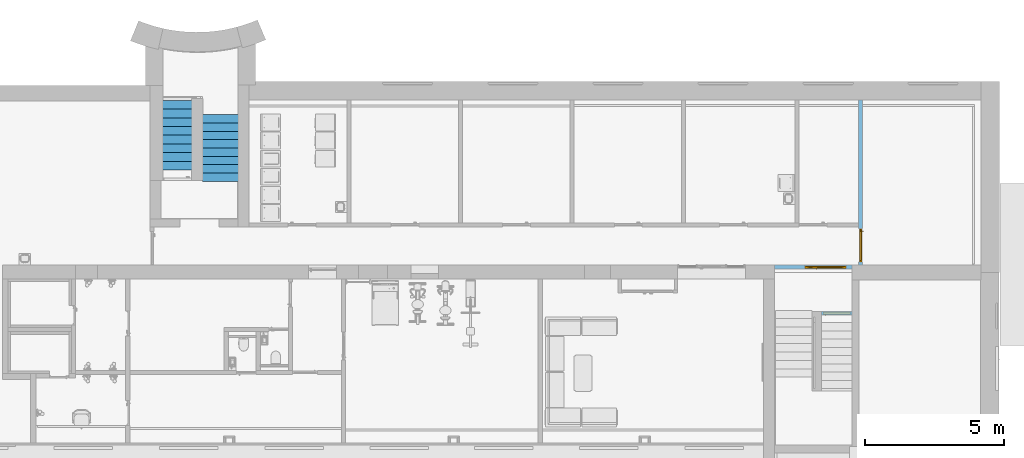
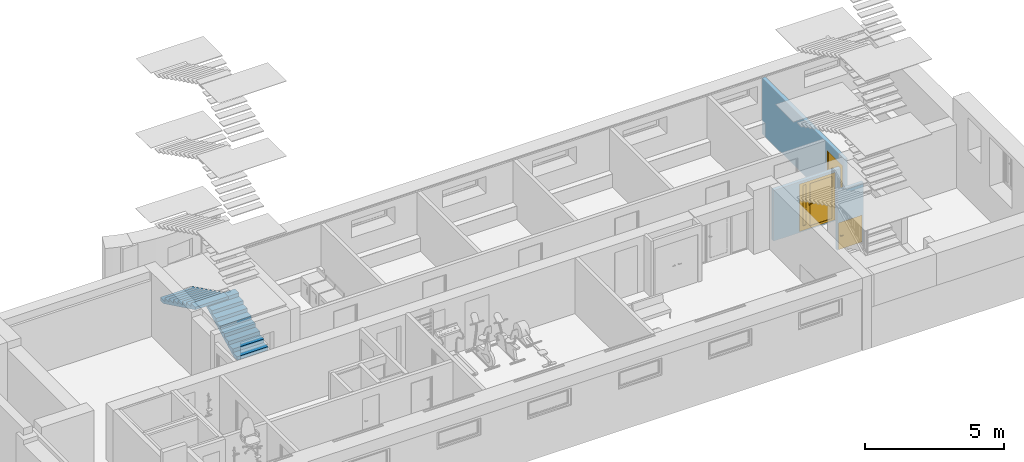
# One storey, part 15 of 23: 3 doors, 2 stair flights, 3 openings, 2 elements without a shape of their own, plus 3 elements that do not belong to this part.
"""IFC2X3 building model written with IfcOpenShell, lengths in millimetres."""

from ifc_helpers import new_model, entity, si_unit, converted_unit, derived_unit, direction, frame, frame_2d, origin, place, context, subcontext, project, spatial, rectangle, extrude, faceted_brep, source, transform, mapped, material, material_list, layer, layer_set, layer_usage, type_object, type_shapes, element, fill, aggregate, save


model = new_model("IFC2X3")

# Units and contexts
model_context = context("Model", 3, precision=0.01, world=origin(), true_north=direction((6.12303176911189e-17, 1.0)))
body_context = subcontext(model_context, "Body", "Model", "MODEL_VIEW")
ifc_project = project(units=[si_unit("LENGTHUNIT", "METRE", prefix="MILLI"), si_unit("AREAUNIT", "SQUARE_METRE"), si_unit("VOLUMEUNIT", "CUBIC_METRE"), converted_unit("PLANEANGLEUNIT", "DEGREE", entity("IfcRatioMeasure", 0.0174532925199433), si_unit("PLANEANGLEUNIT", "RADIAN"), dimensions=[0, 0, 0, 0, 0, 0, 0]), si_unit("MASSUNIT", "GRAM", prefix="KILO"), derived_unit("MASSDENSITYUNIT", [(si_unit("MASSUNIT", "GRAM", prefix="KILO"), 1), (si_unit("LENGTHUNIT", "METRE"), -3)]), si_unit("TIMEUNIT", "SECOND"), si_unit("FREQUENCYUNIT", "HERTZ"), si_unit("THERMODYNAMICTEMPERATUREUNIT", "DEGREE_CELSIUS"), derived_unit("THERMALTRANSMITTANCEUNIT", [(si_unit("MASSUNIT", "GRAM", prefix="KILO"), 1), (si_unit("THERMODYNAMICTEMPERATUREUNIT", "KELVIN"), -1), (si_unit("TIMEUNIT", "SECOND"), -3)]), derived_unit("VOLUMETRICFLOWRATEUNIT", [(si_unit("LENGTHUNIT", "METRE"), 3), (si_unit("TIMEUNIT", "SECOND"), -1)]), si_unit("ELECTRICCURRENTUNIT", "AMPERE"), si_unit("ELECTRICVOLTAGEUNIT", "VOLT"), si_unit("POWERUNIT", "WATT"), si_unit("FORCEUNIT", "NEWTON", prefix="KILO"), si_unit("ILLUMINANCEUNIT", "LUX"), si_unit("LUMINOUSFLUXUNIT", "LUMEN"), si_unit("LUMINOUSINTENSITYUNIT", "CANDELA"), derived_unit("USERDEFINED", [(si_unit("MASSUNIT", "GRAM", prefix="KILO"), -1), (si_unit("LENGTHUNIT", "METRE"), -2), (si_unit("TIMEUNIT", "SECOND"), 3), (si_unit("LUMINOUSFLUXUNIT", "LUMEN"), 1)]), derived_unit("LINEARVELOCITYUNIT", [(si_unit("LENGTHUNIT", "METRE"), 1), (si_unit("TIMEUNIT", "SECOND"), -1)]), si_unit("PRESSUREUNIT", "PASCAL"), derived_unit("USERDEFINED", [(si_unit("LENGTHUNIT", "METRE"), -2), (si_unit("MASSUNIT", "GRAM", prefix="KILO"), 1), (si_unit("TIMEUNIT", "SECOND"), -2)]), derived_unit("LINEARFORCEUNIT", [(si_unit("MASSUNIT", "GRAM", prefix="KILO"), 1), (si_unit("LENGTHUNIT", "METRE"), 1), (si_unit("TIMEUNIT", "SECOND"), -2), (si_unit("LENGTHUNIT", "METRE"), -1)]), derived_unit("PLANARFORCEUNIT", [(si_unit("MASSUNIT", "GRAM", prefix="KILO"), 1), (si_unit("LENGTHUNIT", "METRE"), 1), (si_unit("TIMEUNIT", "SECOND"), -2), (si_unit("LENGTHUNIT", "METRE"), -2)])], contexts=[model_context])

# Site, building, storey
site_placement = place(None, origin())
site = spatial("IfcSite", under=ifc_project, at=site_placement, Name="Default", CompositionType="ELEMENT")
building_placement = place(site_placement, origin())
building = spatial("IfcBuilding", under=site, at=building_placement, Name="SMA ARH", CompositionType="ELEMENT")
storey_placement = place(building_placement, frame((0.0, 0.0, -2800.0)))
storey = spatial("IfcBuildingStorey", under=building, at=storey_placement, Name="0 Sokkel", CompositionType="ELEMENT", Elevation=-2800.0)

# Wall, opening, door
ifc_material_1 = material(Name="EST. Müüritis. Väikeplokk. Kergkruusplokk")
ifc_layer_1 = layer(ifc_material_1, 150.0)
ifc_layer_set_1 = layer_set([ifc_layer_1], Name="Basic Wall:SS-02_ 150mm šahtide vahesein")
ifc_layer_usage_1 = layer_usage(ifc_layer_set_1, "AXIS2", "POSITIVE", -75.0)
wall_type_1 = type_object("IfcWallType", Name="Basic Wall:SS-02_ 150mm šahtide vahesein", PredefinedType="STANDARD", material=ifc_layer_set_1)
wall_1_placement = place(storey_placement, frame((30830.0, 6445.0, 0.0)))
wall_1 = element("IfcWallStandardCase", 1, at=wall_1_placement, inside=storey, type_object=wall_type_1, material=ifc_layer_usage_1, Name="Basic Wall:SS-02_ 150mm šahtide vahesein", ObjectType="Basic Wall:SS-02_ 150mm šahtide vahesein", context=body_context, shape_type="SweptSolid", body=[
    extrude(rectangle(XDim=2785.00000000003, YDim=150.000000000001, at=frame_2d((1392.50000000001, 3.05533376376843e-13), x_axis=(-1.0, 0.0))), origin(), (0.0, 0.0, 1.0), 2231.44225118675),
])
opening_1_placement = place(wall_1_placement, frame((2585.0, 75.0, 35.0)))
opening_1 = element("IfcOpeningElement", 2, at=opening_1_placement, cuts=wall_1, Name="SMA_D02, 2-poolne:SU-AL-01 - 1500x2100:1", ObjectType="Opening", context=body_context, shape_type="SweptSolid", body=[
    extrude(rectangle(XDim=2099.99999999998, YDim=1500.0, at=frame_2d((1049.99999999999, 750.0), x_axis=(1.0, 0.0))), frame((0.0, 0.0, 0.0), z_axis=(0.0, -1.0, 0.0), x_axis=(0.0, 0.0, 1.0)), (0.0, 0.0, 1.0), 150.0),
])
ifc_material_2 = material(Name="EST. Metall. Plekk. Värvitud. RAL7023 (Concrete grey)")
ifc_material_3 = material(Name="EST. Klaas. 3x. Default")
ifc_material_list_1 = material_list([ifc_material_2, ifc_material_3])
ifc_material_4 = material(Name="<Unnamed>")
ifc_material_list_2 = material_list([ifc_material_2, ifc_material_4, ifc_material_4, ifc_material_2, ifc_material_3, ifc_material_4, ifc_material_2])
door_style_1 = type_object("IfcDoorStyle", Name="SMA_D02, 2-poolne:SU-AL-01 - 1500x2100", ConstructionType="NOTDEFINED", OperationType="NOTDEFINED", ParameterTakesPrecedence=False, Sizeable=False, material=ifc_material_list_2)
shared_shape_1 = source(origin(), body_context, "Body", "Brep", [
    faceted_brep([(1052.5, 40.0, 1100.0), (957.499999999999, 40.0, 1100.0), (957.499999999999, 35.0, 1100.0), (1077.5, 35.0, 1100.0), (1077.5, 78.0, 1100.0), (1052.5, 78.0, 1100.0), (1052.5, 40.0, 1075.0), (1052.5, 78.0, 1075.0), (1077.5, 78.0, 1075.0), (1077.5, 35.0, 1075.0), (957.499999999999, 35.0, 1075.0), (957.499999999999, 40.0, 1075.0)], [[[0, 1, 2, 3, 4, 5]], [[6, 7, 8, 9, 10, 11]], [[5, 7, 6, 0]], [[4, 8, 7, 5]], [[3, 9, 8, 4]], [[2, 10, 9, 3]], [[1, 11, 10, 2]], [[0, 6, 11, 1]]]),
    faceted_brep([(1040.0, 78.0, 1125.0), (1090.0, 78.0, 1125.0), (1090.0, 80.0, 1125.0), (1040.0, 80.0, 1125.0), (1040.0, 78.0, 1005.0), (1040.0, 80.0, 1005.0), (1090.0, 80.0, 1005.0), (1090.0, 78.0, 1005.0)], [[[0, 1, 2, 3]], [[4, 5, 6, 7]], [[3, 5, 4, 0]], [[2, 6, 5, 3]], [[1, 7, 6, 2]], [[0, 4, 7, 1]]]),
    faceted_brep([(1052.5, 170.0, 1100.0), (1052.5, 132.0, 1100.0), (1077.5, 132.0, 1100.0), (1077.5, 175.0, 1100.0), (957.499999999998, 175.0, 1100.0), (957.499999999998, 170.0, 1100.0), (1052.5, 170.0, 1075.0), (957.499999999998, 170.0, 1075.0), (957.499999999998, 175.0, 1075.0), (1077.5, 175.0, 1075.0), (1077.5, 132.0, 1075.0), (1052.5, 132.0, 1075.0)], [[[0, 1, 2, 3, 4, 5]], [[6, 7, 8, 9, 10, 11]], [[1, 0, 6, 11]], [[2, 1, 11, 10]], [[3, 2, 10, 9]], [[4, 3, 9, 8]], [[5, 4, 8, 7]], [[0, 5, 7, 6]]]),
    faceted_brep([(1040.0, 132.0, 1125.0), (1040.0, 130.0, 1125.0), (1090.0, 130.0, 1125.0), (1090.0, 132.0, 1125.0), (1040.0, 132.0, 1005.0), (1090.0, 132.0, 1005.0), (1090.0, 130.0, 1005.0), (1040.0, 130.0, 1005.0)], [[[0, 1, 2, 3]], [[4, 5, 6, 7]], [[1, 0, 4, 7]], [[2, 1, 7, 6]], [[3, 2, 6, 5]], [[0, 3, 5, 4]]]),
    faceted_brep([(1424.5, 40.0, 30.0), (1424.5, 40.0, 0.0), (1424.5, 80.0, 0.0), (1424.5, 80.0, 20.0), (1424.5, 80.0, 30.0), (75.4999999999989, 40.0, 30.0), (75.4999999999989, 80.0, 30.0), (75.4999999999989, 80.0, 20.0), (75.4999999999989, 80.0, 0.0), (75.4999999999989, 40.0, 0.0), (70.0, 80.0, 0.0), (70.0, 130.0, 0.0), (1430.0, 130.0, 0.0), (1430.0, 80.0, 0.0), (1430.0, 130.0, 20.0), (1430.0, 80.0, 20.0), (70.0, 130.0, 20.0), (70.0, 80.0, 20.0)], [[[0, 1, 2, 3, 4]], [[5, 6, 7, 8, 9]], [[1, 0, 5, 9]], [[2, 1, 9, 8, 10, 11, 12, 13]], [[6, 4, 3, 7]], [[0, 4, 6, 5]], [[14, 15, 13, 12]], [[16, 11, 10, 17]], [[15, 14, 16, 17, 7, 3]], [[13, 15, 3, 2]], [[14, 12, 11, 16]], [[17, 10, 8, 7]]]),
    faceted_brep([(1490.0, 40.0, 0.0), (1424.5, 40.0, 0.0), (1424.5, 80.0, 0.0), (1430.0, 80.0, 0.0), (1430.0, 130.0, 0.0), (1490.0, 130.0, 0.0), (1490.0, 40.0, 2090.0), (10.0, 40.0, 2090.0), (10.0, 40.0, 0.0), (75.4999999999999, 40.0, 0.0), (75.5, 40.0, 2024.49999999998), (1424.5, 40.0, 2024.49999999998), (1424.5, 80.0, 2024.49999999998), (75.4999999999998, 80.0, 2024.49999999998), (75.4999999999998, 80.0, 0.0), (70.0, 80.0, 0.0), (70.0, 80.0, 2030.0), (1430.0, 80.0, 2030.0), (1430.0, 130.0, 2030.0), (70.0, 130.0, 2030.0), (70.0, 130.0, 0.0), (10.0, 130.0, 0.0), (10.0, 130.0, 2090.0), (1490.0, 130.0, 2090.0)], [[[0, 1, 2, 3, 4, 5]], [[1, 0, 6, 7, 8, 9, 10, 11]], [[2, 1, 11, 12]], [[3, 2, 12, 13, 14, 15, 16, 17]], [[4, 3, 17, 18]], [[5, 4, 18, 19, 20, 21, 22, 23]], [[0, 5, 23, 6]], [[8, 7, 22, 21]], [[9, 8, 21, 20, 15, 14]], [[10, 9, 14, 13]], [[16, 15, 20, 19]], [[11, 10, 13, 12]], [[17, 16, 19, 18]], [[7, 6, 23, 22]]]),
    faceted_brep([(145.0, 95.0, 95.0), (1055.0, 95.0, 95.0), (1055.0, 95.0, 1955.0), (145.0, 95.0, 1955.0), (145.0, 115.0, 95.0), (145.0, 115.0, 1955.0), (1055.0, 115.0, 1955.0), (1055.0, 115.0, 95.0)], [[[0, 1, 2, 3]], [[4, 5, 6, 7]], [[1, 0, 4, 7]], [[2, 1, 7, 6]], [[3, 2, 6, 5]], [[0, 3, 5, 4]]]),
    faceted_brep([(1225.0, 95.0, 200.0), (1355.0, 95.0, 200.0), (1355.0, 95.0, 1980.0), (1225.0, 95.0, 1980.0), (1225.0, 115.0, 200.0), (1225.0, 115.0, 1980.0), (1355.0, 115.0, 1980.0), (1355.0, 115.0, 200.0)], [[[0, 1, 2, 3]], [[4, 5, 6, 7]], [[1, 0, 4, 7]], [[2, 1, 7, 6]], [[3, 2, 6, 5]], [[0, 3, 5, 4]]]),
    faceted_brep([(1140.0, 80.0, 2030.0), (70.0, 80.0, 2030.0), (70.0, 80.0, 20.0), (1140.0, 80.0, 20.0), (145.0, 80.0, 95.0), (145.0, 80.0, 1955.0), (1055.0, 80.0, 1955.0), (1055.0, 80.0, 95.0), (1140.0, 130.0, 2030.0), (1140.0, 130.0, 20.0), (70.0, 130.0, 20.0), (70.0, 130.0, 2030.0), (145.0, 130.0, 1955.0), (145.0, 130.0, 95.0), (1055.0, 130.0, 95.0), (1055.0, 130.0, 1955.0)], [[[0, 1, 2, 3], [4, 5, 6, 7]], [[8, 9, 10, 11], [12, 13, 14, 15]], [[1, 0, 8, 11]], [[2, 1, 11, 10]], [[3, 2, 10, 9]], [[0, 3, 9, 8]], [[12, 5, 4, 13]], [[13, 4, 7, 14]], [[14, 7, 6, 15]], [[5, 12, 15, 6]]]),
    faceted_brep([(1140.0, 80.0, 2030.0), (1140.0, 80.0, 20.0), (1430.0, 80.0, 20.0), (1430.0, 80.0, 2030.0), (1225.0, 80.0, 200.0), (1225.0, 80.0, 1980.0), (1355.0, 80.0, 1980.0), (1355.0, 80.0, 200.0), (1140.0, 130.0, 2030.0), (1430.0, 130.0, 2030.0), (1430.0, 130.0, 20.0), (1140.0, 130.0, 20.0), (1225.0, 130.0, 1980.0), (1225.0, 130.0, 200.0), (1355.0, 130.0, 200.0), (1355.0, 130.0, 1980.0)], [[[0, 1, 2, 3], [4, 5, 6, 7]], [[8, 9, 10, 11], [12, 13, 14, 15]], [[1, 0, 8, 11]], [[2, 1, 11, 10]], [[3, 2, 10, 9]], [[0, 3, 9, 8]], [[12, 5, 4, 13]], [[13, 4, 7, 14]], [[14, 7, 6, 15]], [[5, 12, 15, 6]]]),
])
type_shapes(door_style_1, [shared_shape_1])
door_1_placement = place(opening_1_placement, frame((0.0, 0.0, 0.0), z_axis=(0.0, 0.0, 1.0), x_axis=(-1.0, 0.0, 0.0)))
door_1 = element("IfcDoor", 3, at=door_1_placement, inside=storey, type_object=door_style_1, material=ifc_material_list_1, Name="SMA_D02, 2-poolne:SU-AL-01 - 1500x2100", ObjectType="SMA_D02, 2-poolne:SU-AL-01 - 1500x2100", OverallHeight=2099.99999999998, OverallWidth=1500.0, context=body_context, shape_type="MappedRepresentation", body=[
    mapped(shared_shape_1, transform((0.0, 0.0, 0.0), scale=1.0)),
])
fill(opening_1, door_1)

ifc_layer_2 = layer(ifc_material_1, 150.0)
ifc_layer_set_2 = layer_set([ifc_layer_2], Name="Basic Wall:SS-01_ 150mm soklikorruse seinad")
ifc_layer_usage_2 = layer_usage(ifc_layer_set_2, "AXIS2", "NEGATIVE", 75.0)
wall_type_2 = type_object("IfcWallType", Name="Basic Wall:SS-01_ 150mm soklikorruse seinad", PredefinedType="STANDARD", material=ifc_layer_set_2)
wall_2_placement = place(storey_placement, frame((33925.0, 12435.0, 0.0), z_axis=(0.0, 0.0, 1.0), x_axis=(0.0, -1.0, 0.0)))
wall_2 = element("IfcWallStandardCase", 4, at=wall_2_placement, inside=storey, type_object=wall_type_2, material=ifc_layer_usage_2, Name="Basic Wall:SS-01_ 150mm soklikorruse seinad", ObjectType="Basic Wall:SS-01_ 150mm soklikorruse seinad", context=body_context, shape_type="SweptSolid", body=[
    extrude(rectangle(XDim=5914.99999999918, YDim=150.000000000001, at=frame_2d((2957.49999999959, 4.2632564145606e-14), x_axis=(-1.0, 0.0))), origin(), (0.0, 0.0, 1.0), 2450.0),
])
opening_2_placement = place(wall_2_placement, frame((4615.0, -75.0, 0.0)))
opening_2 = element("IfcOpeningElement", 5, at=opening_2_placement, cuts=wall_2, Name="SMA_D01, 1-poolne:SU-M-01 - 1200x2100 EI-30:1", ObjectType="Opening", context=body_context, shape_type="SweptSolid", body=[
    extrude(rectangle(XDim=2099.99999999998, YDim=1200.0, at=frame_2d((1049.99999999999, 600.0), x_axis=(1.0, 0.0))), frame((0.0, 0.0, 0.0), z_axis=(0.0, 1.0, 0.0), x_axis=(0.0, 0.0, 1.0)), (0.0, 0.0, 1.0), 150.0),
])
ifc_material_5 = material(Name="EST. Metall. Alumiinium. Värvitud. RAL7023 (Concrete grey)")
ifc_material_list_3 = material_list([ifc_material_5, ifc_material_4, ifc_material_5, ifc_material_5, ifc_material_4, ifc_material_3, ifc_material_4])
door_style_2 = type_object("IfcDoorStyle", Name="SMA_D01, 1-poolne:SU-M-01 - 1200x2100 EI-30", ConstructionType="NOTDEFINED", OperationType="NOTDEFINED", ParameterTakesPrecedence=False, Sizeable=False, material=ifc_material_list_3)
shared_shape_2 = source(origin(), body_context, "Body", "Brep", [
    faceted_brep([(110.0, 40.0, 1112.5), (110.0, 78.0, 1112.5), (85.0, 78.0, 1112.5), (85.0, 35.0, 1112.5), (205.0, 35.0, 1112.5), (205.0, 40.0, 1112.5), (110.0, 40.0, 1087.5), (205.0, 40.0, 1087.5), (205.0, 35.0, 1087.5), (85.0, 35.0, 1087.5), (85.0, 78.0, 1087.5), (110.0, 78.0, 1087.5)], [[[0, 1, 2, 3, 4, 5]], [[6, 7, 8, 9, 10, 11]], [[1, 0, 6, 11]], [[2, 1, 11, 10]], [[3, 2, 10, 9]], [[4, 3, 9, 8]], [[5, 4, 8, 7]], [[0, 5, 7, 6]]]),
    faceted_brep([(122.499999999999, 78.0, 1137.5), (122.499999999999, 80.0, 1137.5), (72.4999999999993, 80.0, 1137.5), (72.4999999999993, 78.0, 1137.5), (122.499999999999, 78.0, 1017.5), (72.4999999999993, 78.0, 1017.5), (72.4999999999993, 80.0, 1017.5), (122.499999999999, 80.0, 1017.5)], [[[0, 1, 2, 3]], [[4, 5, 6, 7]], [[1, 0, 4, 7]], [[2, 1, 7, 6]], [[3, 2, 6, 5]], [[0, 3, 5, 4]]]),
    faceted_brep([(110.0, 170.0, 1112.5), (205.0, 170.0, 1112.5), (205.0, 175.0, 1112.5), (85.0, 175.0, 1112.5), (85.0, 132.0, 1112.5), (110.0, 132.0, 1112.5), (110.0, 170.0, 1087.5), (110.0, 132.0, 1087.5), (85.0, 132.0, 1087.5), (85.0, 175.0, 1087.5), (205.0, 175.0, 1087.5), (205.0, 170.0, 1087.5)], [[[0, 1, 2, 3, 4, 5]], [[6, 7, 8, 9, 10, 11]], [[5, 7, 6, 0]], [[4, 8, 7, 5]], [[3, 9, 8, 4]], [[2, 10, 9, 3]], [[1, 11, 10, 2]], [[0, 6, 11, 1]]]),
    faceted_brep([(122.499999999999, 132.0, 1137.5), (72.4999999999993, 132.0, 1137.5), (72.4999999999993, 130.0, 1137.5), (122.499999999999, 130.0, 1137.5), (122.499999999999, 132.0, 1017.5), (122.499999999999, 130.0, 1017.5), (72.4999999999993, 130.0, 1017.5), (72.4999999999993, 132.0, 1017.5)], [[[0, 1, 2, 3]], [[4, 5, 6, 7]], [[3, 5, 4, 0]], [[2, 6, 5, 3]], [[1, 7, 6, 2]], [[0, 4, 7, 1]]]),
    faceted_brep([(1150.0, 40.0, 30.0), (1150.0, 40.0, 0.0), (1150.0, 80.0, 0.0), (1150.0, 80.0, 20.0), (1150.0, 80.0, 30.0), (50.0, 40.0, 30.0), (50.0, 80.0, 30.0), (50.0, 80.0, 20.0), (50.0, 80.0, 0.0), (50.0, 40.0, 0.0), (35.0, 80.0, 0.0), (35.0, 130.0, 0.0), (1165.0, 130.0, 0.0), (1165.0, 80.0, 0.0), (1165.0, 130.0, 20.0), (1165.0, 80.0, 20.0), (35.0, 130.0, 20.0), (35.0, 80.0, 20.0)], [[[0, 1, 2, 3, 4]], [[5, 6, 7, 8, 9]], [[1, 0, 5, 9]], [[2, 1, 9, 8, 10, 11, 12, 13]], [[6, 4, 3, 7]], [[0, 4, 6, 5]], [[14, 15, 13, 12]], [[16, 11, 10, 17]], [[15, 14, 16, 17, 7, 3]], [[13, 15, 3, 2]], [[14, 12, 11, 16]], [[17, 10, 8, 7]]]),
    faceted_brep([(1190.0, 40.0, 0.0), (1150.0, 40.0, 0.0), (1150.0, 80.0, 0.0), (1165.0, 80.0, 0.0), (1165.0, 130.0, 0.0), (1190.0, 130.0, 0.0), (1190.0, 40.0, 2090.0), (10.0, 40.0, 2090.0), (10.0, 40.0, 0.0), (50.0, 40.0, 0.0), (50.0, 40.0, 2050.0), (1150.0, 40.0, 2050.0), (1150.0, 80.0, 2050.0), (50.0, 80.0, 2050.0), (50.0, 80.0, 0.0), (35.0, 80.0, 0.0), (35.0, 80.0, 2065.0), (1165.0, 80.0, 2065.0), (1165.0, 130.0, 2065.0), (35.0, 130.0, 2065.0), (35.0, 130.0, 0.0), (10.0, 130.0, 0.0), (10.0, 130.0, 2090.0), (1190.0, 130.0, 2090.0)], [[[0, 1, 2, 3, 4, 5]], [[1, 0, 6, 7, 8, 9, 10, 11]], [[2, 1, 11, 12]], [[3, 2, 12, 13, 14, 15, 16, 17]], [[4, 3, 17, 18]], [[5, 4, 18, 19, 20, 21, 22, 23]], [[0, 5, 23, 6]], [[8, 7, 22, 21]], [[9, 8, 21, 20, 15, 14]], [[10, 9, 14, 13]], [[16, 15, 20, 19]], [[11, 10, 13, 12]], [[17, 16, 19, 18]], [[7, 6, 23, 22]]]),
    faceted_brep([(35.0, 80.0, 2065.0), (35.0, 80.0, 20.0), (1165.0, 80.0, 20.0), (1165.0, 80.0, 2065.0), (35.0, 130.0, 2065.0), (1165.0, 130.0, 2065.0), (1165.0, 130.0, 20.0), (35.0, 130.0, 20.0)], [[[0, 1, 2, 3]], [[4, 5, 6, 7]], [[1, 0, 4, 7]], [[2, 1, 7, 6]], [[3, 2, 6, 5]], [[0, 3, 5, 4]]]),
])
type_shapes(door_style_2, [shared_shape_2])
door_2_placement = place(opening_2_placement, origin())
door_2 = element("IfcDoor", 6, at=door_2_placement, inside=storey, type_object=door_style_2, material=ifc_material_5, Name="SMA_D01, 1-poolne:SU-M-01 - 1200x2100 EI-30", ObjectType="SMA_D01, 1-poolne:SU-M-01 - 1200x2100 EI-30", OverallHeight=2099.99999999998, OverallWidth=1200.0, context=body_context, shape_type="MappedRepresentation", body=[
    mapped(shared_shape_2, transform((0.0, 0.0, 0.0), scale=1.0)),
])
fill(opening_2, door_2)

ifc_material_6 = material(Name="_ol.olev sein")
ifc_layer_3 = layer(ifc_material_6, 120.0)
ifc_layer_set_3 = layer_set([ifc_layer_3], Name="Basic Wall:Generic - 120mm")
ifc_layer_usage_3 = layer_usage(ifc_layer_set_3, "AXIS2", "NEGATIVE", 60.0)
wall_type_3 = type_object("IfcWallType", Name="Basic Wall:Generic - 120mm", PredefinedType="STANDARD", material=ifc_layer_set_3)
wall_3_placement = place(storey_placement, frame((33615.0, 4780.0, 0.0), z_axis=(0.0, 0.0, 1.0), x_axis=(-1.0, 0.0, 0.0)))
wall_3 = element("IfcWallStandardCase", 7, at=wall_3_placement, inside=storey, type_object=wall_type_3, material=ifc_layer_usage_3, Name="Basic Wall:Generic - 120mm", ObjectType="Basic Wall:Generic - 120mm", context=body_context, shape_type="SweptSolid", body=[
    extrude(rectangle(XDim=1085.00000000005, YDim=120.0, at=frame_2d((542.500000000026, 1.4210854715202e-13), x_axis=(-1.0, 0.0))), origin(), (0.0, 0.0, 1.0), 2620.0),
])
opening_3_placement = place(wall_3_placement, frame((42.4999999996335, -60.0, 0.0)))
opening_3 = element("IfcOpeningElement", 8, at=opening_3_placement, cuts=wall_3, Name="SMA_D01, 1-poolne:SU-M-06 - 1000x1200 EI-30:1", ObjectType="Opening", context=body_context, shape_type="SweptSolid", body=[
    extrude(rectangle(XDim=1199.99999999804, YDim=1000.0, at=frame_2d((599.999999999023, 500.0), x_axis=(1.0, 0.0))), frame((0.0, 0.0, 0.0), z_axis=(0.0, 1.0, 0.0), x_axis=(0.0, 0.0, 1.0)), (0.0, 0.0, 1.0), 120.0),
])
ifc_material_list_4 = material_list([ifc_material_4, ifc_material_5, ifc_material_3, ifc_material_5, ifc_material_4, ifc_material_5, ifc_material_4])
door_style_3 = type_object("IfcDoorStyle", Name="SMA_D01, 1-poolne:SU-M-06 - 1000x1200 EI-30", ConstructionType="NOTDEFINED", OperationType="NOTDEFINED", ParameterTakesPrecedence=False, Sizeable=False, material=ifc_material_list_4)
shared_shape_3 = source(origin(), body_context, "Body", "Brep", [
    faceted_brep([(890.0, 10.0, 612.5), (795.0, 10.0, 612.5), (795.0, 5.0, 612.5), (915.0, 5.0, 612.5), (915.0, 48.0, 612.5), (890.0, 48.0, 612.5), (890.0, 10.0, 587.5), (890.0, 48.0, 587.5), (915.0, 48.0, 587.5), (915.0, 5.0, 587.5), (795.0, 5.0, 587.5), (795.0, 10.0, 587.5)], [[[0, 1, 2, 3, 4, 5]], [[6, 7, 8, 9, 10, 11]], [[5, 7, 6, 0]], [[4, 8, 7, 5]], [[3, 9, 8, 4]], [[2, 10, 9, 3]], [[1, 11, 10, 2]], [[0, 6, 11, 1]]]),
    faceted_brep([(877.500000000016, 48.0, 637.5), (927.500000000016, 48.0, 637.5), (927.500000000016, 50.0, 637.5), (877.500000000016, 50.0, 637.5), (877.500000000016, 48.0, 517.5), (877.500000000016, 50.0, 517.5), (927.500000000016, 50.0, 517.5), (927.500000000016, 48.0, 517.5)], [[[0, 1, 2, 3]], [[4, 5, 6, 7]], [[3, 5, 4, 0]], [[2, 6, 5, 3]], [[1, 7, 6, 2]], [[0, 4, 7, 1]]]),
    faceted_brep([(890.0, 140.0, 612.5), (890.0, 102.0, 612.5), (915.0, 102.0, 612.5), (915.0, 145.0, 612.5), (795.0, 145.0, 612.5), (795.0, 140.0, 612.5), (890.0, 140.0, 587.5), (795.0, 140.0, 587.5), (795.0, 145.0, 587.5), (915.0, 145.0, 587.5), (915.0, 102.0, 587.5), (890.0, 102.0, 587.5)], [[[0, 1, 2, 3, 4, 5]], [[6, 7, 8, 9, 10, 11]], [[1, 0, 6, 11]], [[2, 1, 11, 10]], [[3, 2, 10, 9]], [[4, 3, 9, 8]], [[5, 4, 8, 7]], [[0, 5, 7, 6]]]),
    faceted_brep([(877.500000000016, 102.0, 637.5), (877.500000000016, 100.0, 637.5), (927.500000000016, 100.0, 637.5), (927.500000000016, 102.0, 637.5), (877.500000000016, 102.0, 517.5), (927.500000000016, 102.0, 517.5), (927.500000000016, 100.0, 517.5), (877.500000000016, 100.0, 517.5)], [[[0, 1, 2, 3]], [[4, 5, 6, 7]], [[1, 0, 4, 7]], [[2, 1, 7, 6]], [[3, 2, 6, 5]], [[0, 3, 5, 4]]]),
    faceted_brep([(10.0, 10.0, 0.0), (10.0, 100.0, 0.0), (35.0, 100.0, 0.0), (35.0, 50.0, 0.0), (50.0, 50.0, 0.0), (50.0, 10.0, 0.0), (50.0, 10.0, 1150.0), (950.0, 10.0, 1150.0), (950.0, 10.0, 0.0), (990.0, 10.0, 0.0), (990.0, 10.0, 1190.0), (10.0, 10.0, 1190.0), (50.0, 50.0, 1150.0), (35.0, 50.0, 1165.0), (965.0, 50.0, 1165.0), (965.0, 50.0, 0.0), (950.0, 50.0, 0.0), (950.0, 50.0, 1150.0), (35.0, 100.0, 1165.0), (10.0, 100.0, 1190.0), (990.0, 100.0, 1190.0), (990.0, 100.0, 0.0), (965.0, 100.0, 0.0), (965.0, 100.0, 1165.0)], [[[0, 1, 2, 3, 4, 5]], [[5, 6, 7, 8, 9, 10, 11, 0]], [[4, 12, 6, 5]], [[3, 13, 14, 15, 16, 17, 12, 4]], [[2, 18, 13, 3]], [[1, 19, 20, 21, 22, 23, 18, 2]], [[0, 11, 19, 1]], [[9, 21, 20, 10]], [[8, 16, 15, 22, 21, 9]], [[7, 17, 16, 8]], [[14, 23, 22, 15]], [[6, 12, 17, 7]], [[13, 18, 23, 14]], [[10, 20, 19, 11]]]),
    faceted_brep([(50.0, 10.0, 30.0), (50.0, 50.0, 30.0), (50.0, 50.0, 20.0), (50.0, 50.0, 0.0), (50.0, 10.0, 0.0), (950.0, 10.0, 30.0), (950.0, 10.0, 0.0), (950.0, 50.0, 0.0), (950.0, 50.0, 20.0), (950.0, 50.0, 30.0), (35.0, 50.0, 0.0), (35.0, 100.0, 0.0), (965.0, 100.0, 0.0), (965.0, 50.0, 0.0), (35.0, 100.0, 20.0), (35.0, 50.0, 20.0), (965.0, 100.0, 20.0), (965.0, 50.0, 20.0)], [[[0, 1, 2, 3, 4]], [[5, 6, 7, 8, 9]], [[4, 6, 5, 0]], [[3, 10, 11, 12, 13, 7, 6, 4]], [[9, 8, 2, 1]], [[0, 5, 9, 1]], [[14, 11, 10, 15]], [[16, 17, 13, 12]], [[15, 2, 8, 17, 16, 14]], [[10, 3, 2, 15]], [[14, 16, 12, 11]], [[17, 8, 7, 13]]]),
    faceted_brep([(965.0, 50.0, 1165.0), (35.0, 50.0, 1165.0), (35.0, 50.0, 20.0), (965.0, 50.0, 20.0), (965.0, 100.0, 1165.0), (965.0, 100.0, 20.0), (35.0, 100.0, 20.0), (35.0, 100.0, 1165.0)], [[[0, 1, 2, 3]], [[4, 5, 6, 7]], [[3, 5, 4, 0]], [[2, 6, 5, 3]], [[1, 7, 6, 2]], [[0, 4, 7, 1]]]),
])
type_shapes(door_style_3, [shared_shape_3])
door_3_placement = place(opening_3_placement, origin())
door_3 = element("IfcDoor", 9, at=door_3_placement, inside=storey, type_object=door_style_3, material=ifc_material_5, Name="SMA_D01, 1-poolne:SU-M-06 - 1000x1200 EI-30", ObjectType="SMA_D01, 1-poolne:SU-M-06 - 1000x1200 EI-30", OverallHeight=1199.99999999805, OverallWidth=999.999999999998, context=body_context, shape_type="MappedRepresentation", body=[
    mapped(shared_shape_3, transform((0.0, 0.0, 0.0), scale=1.0)),
])
fill(opening_3, door_3)

# Stair, stair flight
stair_1_placement = place(storey_placement, origin())
stair_1 = element("IfcStair", 10, at=stair_1_placement, inside=storey, Name="Cast-In-Place Stair:Stair", ObjectType="Cast-In-Place Stair:Cast-In-Place Stair", ShapeType="STRAIGHT_RUN_STAIR")
ifc_material_7 = material(Name="EST. Betoon. Armeeritud. Monteeritav(1)")
stair_flight_type_1 = type_object("IfcStairFlightType", Name="Monolithic Run:Monolithic Run", PredefinedType="STRAIGHT")
stair_flight_1_placement = place(stair_1_placement, frame((10320.0, 9510.0, 0.0)))
stair_flight_1 = element("IfcStairFlight", 11, at=stair_flight_1_placement, type_object=stair_flight_type_1, material=ifc_material_7, Name="Cast-In-Place Stair:Stair:910648 Run 1", ObjectType="Monolithic Run:Monolithic Run", NumberOfRiser=9, NumberOfTreads=8, RiserHeight=0.506707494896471, TreadLength=0.984251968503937, context=body_context, shape_type="Brep", body=[
    faceted_brep([(0.0, 300.0, 194.444444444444), (0.0, 0.0, 194.444444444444), (1300.0, 0.0, 194.444444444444), (1300.0, 300.0, 194.444444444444), (0.0, 300.0, 81.9707011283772), (0.0, 218.4741776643, 40.0), (0.0, 0.0, 40.0), (1300.0, 0.0, 40.0), (1300.0, 218.474177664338, 40.0), (1300.0, 300.0, 81.970701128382), (0.0, 600.0, 348.888888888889), (0.0, 300.0, 348.888888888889), (1300.0, 300.0, 348.888888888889), (1300.0, 600.0, 348.888888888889), (0.0, 600.0, 236.41514557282), (1300.0, 600.0, 236.415145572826), (0.0, 900.0, 503.333333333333), (0.0, 600.0, 503.333333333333), (1300.0, 600.0, 503.333333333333), (1300.0, 900.0, 503.333333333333), (0.0, 900.0, 390.859590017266), (1300.0, 900.0, 390.859590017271), (0.0, 1200.0, 657.777777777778), (0.0, 900.0, 657.777777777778), (1300.0, 900.0, 657.777777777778), (1300.0, 1200.0, 657.777777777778), (0.0, 1200.0, 545.304034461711), (1300.0, 1200.0, 545.304034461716), (0.0, 1500.0, 812.222222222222), (0.0, 1200.0, 812.222222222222), (1300.0, 1200.0, 812.222222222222), (1300.0, 1500.0, 812.222222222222), (0.0, 1500.0, 699.748478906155), (1300.0, 1500.0, 699.74847890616), (0.0, 1800.0, 966.666666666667), (0.0, 1500.0, 966.666666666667), (1300.0, 1500.0, 966.666666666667), (1300.0, 1800.0, 966.666666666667), (0.0, 1800.0, 854.1929233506), (1300.0, 1800.0, 854.192923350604), (0.0, 2100.0, 1121.11111111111), (0.0, 1800.0, 1121.11111111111), (1300.0, 1800.0, 1121.11111111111), (1300.0, 2100.0, 1121.11111111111), (0.0, 2100.0, 1008.63736779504), (1300.0, 2100.0, 1008.63736779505), (0.0, 2400.0, 1163.08181223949), (1300.0, 2400.0, 1163.0818122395), (0.0, 2400.0, 1275.55555555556), (0.0, 2100.0, 1275.55555555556), (1300.0, 2100.0, 1275.55555555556), (1300.0, 2400.0, 1275.55555555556)], [[[0, 1, 2, 3]], [[1, 0, 4, 5, 6]], [[2, 1, 6, 7]], [[3, 2, 7, 8, 9]], [[10, 11, 12, 13]], [[11, 10, 14, 4, 0]], [[0, 3, 12, 11]], [[13, 12, 3, 9, 15]], [[16, 17, 18, 19]], [[17, 16, 20, 14, 10]], [[10, 13, 18, 17]], [[19, 18, 13, 15, 21]], [[22, 23, 24, 25]], [[23, 22, 26, 20, 16]], [[16, 19, 24, 23]], [[25, 24, 19, 21, 27]], [[28, 29, 30, 31]], [[29, 28, 32, 26, 22]], [[22, 25, 30, 29]], [[31, 30, 25, 27, 33]], [[34, 35, 36, 37]], [[35, 34, 38, 32, 28]], [[28, 31, 36, 35]], [[37, 36, 31, 33, 39]], [[40, 41, 42, 43]], [[41, 40, 44, 38, 34]], [[34, 37, 42, 41]], [[43, 42, 37, 39, 45]], [[7, 6, 5, 8]], [[8, 5, 4, 14, 20, 26, 32, 38, 44, 46, 47, 45, 39, 33, 27, 21, 15, 9]], [[48, 49, 50, 51]], [[49, 48, 46, 44, 40]], [[40, 43, 50, 49]], [[51, 50, 43, 45, 47]], [[48, 51, 47, 46]]]),
])
aggregate(stair_1, [stair_flight_1])

stair_2_placement = place(storey_placement, origin())
stair_2 = element("IfcStair", 12, at=stair_2_placement, inside=storey, Name="Cast-In-Place Stair:Stair", ObjectType="Cast-In-Place Stair:Cast-In-Place Stair", ShapeType="STRAIGHT_RUN_STAIR")
stair_flight_type_2 = type_object("IfcStairFlightType", Name="Monolithic Run:Monolithic Run", PredefinedType="NOTDEFINED")
stair_flight_2_placement = place(stair_2_placement, frame((8820.0, 9918.08008261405, 0.0)))
stair_flight_2 = element("IfcStairFlight", 13, at=stair_flight_2_placement, type_object=stair_flight_type_2, material=ifc_material_7, Name="Cast-In-Place Stair:Stair:911166 Run 1", ObjectType="Monolithic Run:Monolithic Run", NumberOfRiser=9, NumberOfTreads=8, RiserHeight=0.49941673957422, TreadLength=0.984251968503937, context=body_context, shape_type="Brep", body=[
    faceted_brep([(1375.73906378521, 2187.50000000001, 1582.22222222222), (1375.73906378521, 2500.0, 1582.22222222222), (0.0, 2500.0, 1582.22222222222), (0.0, 2187.50000000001, 1582.22222222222), (1375.73906378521, 2187.50000000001, 1470.989257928), (1375.73906378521, 2271.6476554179, 1430.0), (1375.73906378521, 2500.0, 1430.0), (0.0, 2500.0, 1430.0), (0.0, 2271.6476554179, 1430.0), (0.0, 2187.50000000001, 1470.989257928), (1375.73906378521, 1875.0, 1734.44444444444), (1375.73906378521, 2187.50000000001, 1734.44444444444), (0.0, 2187.50000000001, 1734.44444444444), (0.0, 1875.0, 1734.44444444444), (1375.73906378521, 1875.0, 1623.21148015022), (0.0, 1875.0, 1623.21148015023), (1375.73906378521, 1562.50000000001, 1886.66666666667), (1375.73906378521, 1875.0, 1886.66666666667), (0.0, 1875.0, 1886.66666666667), (0.0, 1562.50000000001, 1886.66666666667), (1375.73906378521, 1562.50000000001, 1775.43370237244), (0.0, 1562.50000000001, 1775.43370237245), (1375.73906378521, 1250.0, 2038.88888888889), (1375.73906378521, 1562.50000000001, 2038.88888888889), (0.0, 1562.50000000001, 2038.88888888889), (0.0, 1250.0, 2038.88888888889), (1375.73906378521, 1250.0, 1927.65592459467), (0.0, 1250.0, 1927.65592459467), (1375.73906378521, 937.500000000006, 2191.11111111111), (1375.73906378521, 1250.0, 2191.11111111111), (0.0, 1250.0, 2191.11111111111), (0.0, 937.50000000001, 2191.11111111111), (1375.73906378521, 937.500000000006, 2079.87814681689), (0.0, 937.500000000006, 2079.87814681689), (1375.73906378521, 625.0, 2343.33333333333), (1375.73906378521, 937.50000000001, 2343.33333333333), (0.0, 937.50000000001, 2343.33333333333), (0.0, 625.0, 2343.33333333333), (1375.73906378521, 625.0, 2232.10036903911), (0.0, 625.0, 2232.10036903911), (1375.73906378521, 312.5, 2495.55555555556), (1375.73906378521, 625.0, 2495.55555555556), (0.0, 625.0, 2495.55555555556), (0.0, 312.500000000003, 2495.55555555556), (1375.73906378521, 312.5, 2384.32259126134), (0.0, 312.5, 2384.32259126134), (1375.73906378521, 0.0, 2647.77777777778), (1375.73906378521, 312.500000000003, 2647.77777777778), (0.0, 312.500000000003, 2647.77777777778), (0.0, 0.0, 2647.77777777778), (1375.73906378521, 0.0, 2536.54481348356), (0.0, 0.0, 2536.54481348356), (0.0, 0.0, 2600.0), (1343.14624174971, 0.0, 2536.54481348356)], [[[0, 1, 2, 3]], [[1, 0, 4, 5, 6]], [[2, 1, 6, 7]], [[3, 2, 7, 8, 9]], [[10, 11, 12, 13]], [[11, 10, 14, 4, 0]], [[0, 3, 12, 11]], [[13, 12, 3, 9, 15]], [[16, 17, 18, 19]], [[17, 16, 20, 14, 10]], [[10, 13, 18, 17]], [[19, 18, 13, 15, 21]], [[22, 23, 24, 25]], [[23, 22, 26, 20, 16]], [[16, 19, 24, 23]], [[25, 24, 19, 21, 27]], [[28, 29, 30, 31]], [[29, 28, 32, 26, 22]], [[22, 25, 30, 29]], [[31, 30, 25, 27, 33]], [[34, 35, 36, 37]], [[35, 34, 38, 32, 28]], [[28, 31, 36, 35]], [[37, 36, 31, 33, 39]], [[40, 41, 42, 43]], [[41, 40, 44, 38, 34]], [[34, 37, 42, 41]], [[43, 42, 37, 39, 45]], [[46, 47, 48, 49]], [[47, 46, 50, 44, 40]], [[40, 43, 48, 47]], [[49, 48, 43, 45, 51, 52]], [[46, 49, 52, 51, 53, 50]], [[7, 6, 5, 8]], [[8, 5, 4, 14, 20, 26, 32, 38, 44, 50, 53, 51, 45, 39, 33, 27, 21, 15, 9]]]),
])
aggregate(stair_2, [stair_flight_2])

save(model, "model.ifc")
